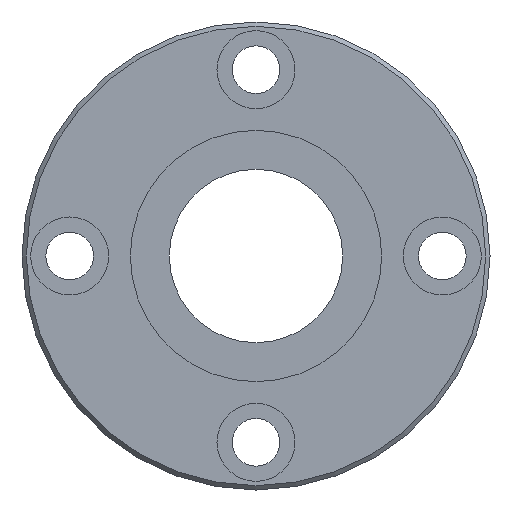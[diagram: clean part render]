
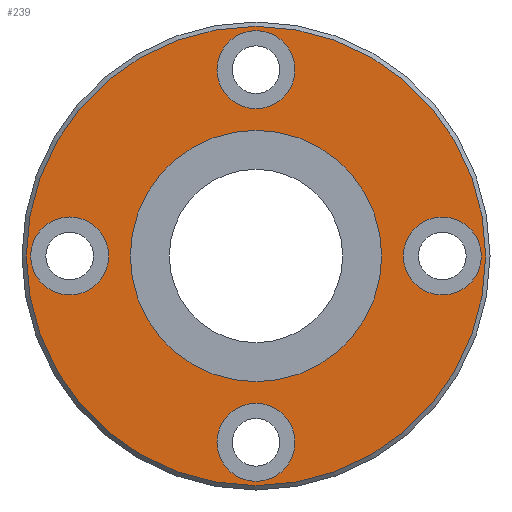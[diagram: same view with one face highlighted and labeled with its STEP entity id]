
A CAD part, left-side view. The second image highlights one B-rep face of the part: STEP entity #239.
In plain terms, the highlighted planar face has unit normal (-1, 0, 0).
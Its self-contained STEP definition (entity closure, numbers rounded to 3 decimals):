
#164=CARTESIAN_POINT('',(0.0,0.,26.5));
#165=VERTEX_POINT('',#164);
#166=CARTESIAN_POINT('',(0.0,0.0,0.0));
#167=DIRECTION('',(1.0,0.0,0.0));
#168=DIRECTION('',(0.0,0.0,-1.0));
#169=AXIS2_PLACEMENT_3D('',#166,#167,#168);
#170=CIRCLE('',#169,26.5);
#171=EDGE_CURVE('',#165,#165,#170,.T.);
#176=CARTESIAN_POINT('',(0.0,0.0,15.25));
#177=DIRECTION('',(-1.0,0.0,0.0));
#178=DIRECTION('',(0.0,0.0,1.0));
#179=AXIS2_PLACEMENT_3D('',#176,#177,#178);
#180=PLANE('',#179);
#181=ORIENTED_EDGE('',*,*,#171,.F.);
#182=EDGE_LOOP('',(#181));
#183=FACE_OUTER_BOUND('',#182,.T.);
#184=CARTESIAN_POINT('',(0.0,0.0,14.5));
#185=VERTEX_POINT('',#184);
#186=CARTESIAN_POINT('',(0.0,0.0,0.0));
#187=DIRECTION('',(-1.0,0.0,0.0));
#188=DIRECTION('',(0.0,0.0,1.0));
#189=AXIS2_PLACEMENT_3D('',#186,#187,#188);
#190=CIRCLE('',#189,14.5);
#191=EDGE_CURVE('',#185,#185,#190,.T.);
#192=ORIENTED_EDGE('',*,*,#191,.F.);
#193=EDGE_LOOP('',(#192));
#194=FACE_BOUND('',#193,.T.);
#195=CARTESIAN_POINT('',(0.0,26.0,0.));
#196=VERTEX_POINT('',#195);
#197=CARTESIAN_POINT('',(0.0,21.5,0.));
#198=DIRECTION('',(1.0,0.0,0.0));
#199=DIRECTION('',(0.0,1.0,0.0));
#200=AXIS2_PLACEMENT_3D('',#197,#198,#199);
#201=CIRCLE('',#200,4.5);
#202=EDGE_CURVE('',#196,#196,#201,.T.);
#203=ORIENTED_EDGE('',*,*,#202,.T.);
#204=EDGE_LOOP('',(#203));
#205=FACE_BOUND('',#204,.T.);
#206=CARTESIAN_POINT('',(0.0,-17.0,0.));
#207=VERTEX_POINT('',#206);
#208=CARTESIAN_POINT('',(0.0,-21.5,0.));
#209=DIRECTION('',(1.0,0.0,0.0));
#210=DIRECTION('',(0.0,1.0,0.0));
#211=AXIS2_PLACEMENT_3D('',#208,#209,#210);
#212=CIRCLE('',#211,4.5);
#213=EDGE_CURVE('',#207,#207,#212,.T.);
#214=ORIENTED_EDGE('',*,*,#213,.T.);
#215=EDGE_LOOP('',(#214));
#216=FACE_BOUND('',#215,.T.);
#217=CARTESIAN_POINT('',(0.0,4.5,21.5));
#218=VERTEX_POINT('',#217);
#219=CARTESIAN_POINT('',(0.0,0.,21.5));
#220=DIRECTION('',(1.0,0.0,0.0));
#221=DIRECTION('',(0.0,1.0,0.0));
#222=AXIS2_PLACEMENT_3D('',#219,#220,#221);
#223=CIRCLE('',#222,4.5);
#224=EDGE_CURVE('',#218,#218,#223,.T.);
#225=ORIENTED_EDGE('',*,*,#224,.T.);
#226=EDGE_LOOP('',(#225));
#227=FACE_BOUND('',#226,.T.);
#228=CARTESIAN_POINT('',(0.0,4.5,-21.5));
#229=VERTEX_POINT('',#228);
#230=CARTESIAN_POINT('',(0.0,0.,-21.5));
#231=DIRECTION('',(1.0,0.0,0.0));
#232=DIRECTION('',(0.0,1.0,0.0));
#233=AXIS2_PLACEMENT_3D('',#230,#231,#232);
#234=CIRCLE('',#233,4.5);
#235=EDGE_CURVE('',#229,#229,#234,.T.);
#236=ORIENTED_EDGE('',*,*,#235,.T.);
#237=EDGE_LOOP('',(#236));
#238=FACE_BOUND('',#237,.T.);
#239=ADVANCED_FACE('',(#183,#194,#205,#216,#227,#238),#180,.T.);
